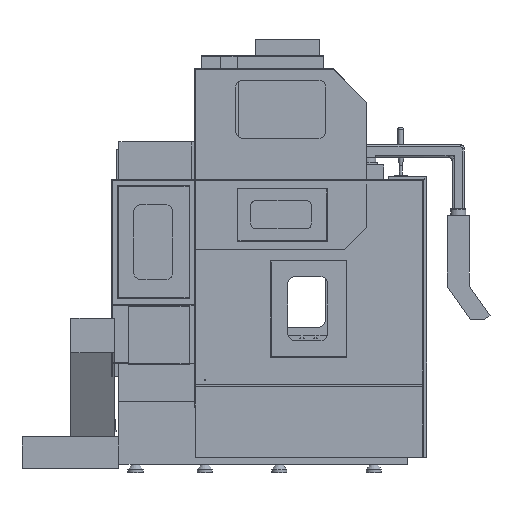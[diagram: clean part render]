
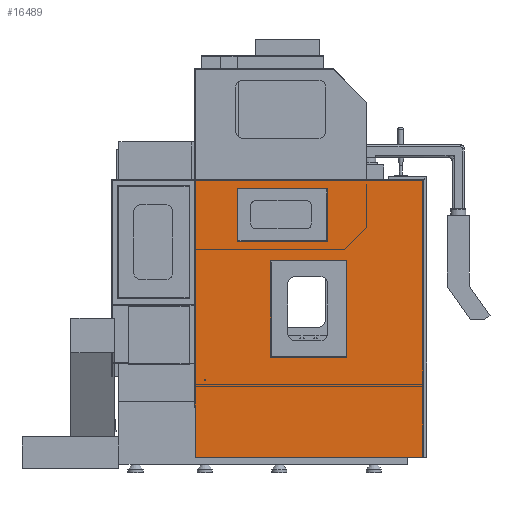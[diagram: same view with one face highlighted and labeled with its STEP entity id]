
A CAD part, left-side view. The second image highlights one B-rep face of the part: STEP entity #16489.
In plain terms, the highlighted planar face has unit normal (-1, 0, 0).
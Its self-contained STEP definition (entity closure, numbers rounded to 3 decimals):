
#2694=FACE_BOUND('',#23367,.T.);
#2695=FACE_BOUND('',#23368,.T.);
#2696=FACE_BOUND('',#23369,.T.);
#2697=FACE_BOUND('',#23370,.T.);
#16489=ADVANCED_FACE('',(#2694,#2695,#2696,#2697),#18668,.T.);
#18668=PLANE('',#61433);
#23367=EDGE_LOOP('',(#31279,#31280,#31281,#31282));
#23368=EDGE_LOOP('',(#31283,#31284,#31285,#31286));
#23369=EDGE_LOOP('',(#31287,#31288,#31289,#31290,#31291,#31292,#31293,#31294,
#31295,#31296,#31297,#31298));
#23370=EDGE_LOOP('',(#31299,#31300,#31301,#31302));
#31279=ORIENTED_EDGE('',*,*,#44509,.F.);
#31280=ORIENTED_EDGE('',*,*,#44506,.F.);
#31281=ORIENTED_EDGE('',*,*,#44503,.F.);
#31282=ORIENTED_EDGE('',*,*,#44499,.F.);
#31283=ORIENTED_EDGE('',*,*,#45239,.F.);
#31284=ORIENTED_EDGE('',*,*,#45236,.F.);
#31285=ORIENTED_EDGE('',*,*,#45233,.F.);
#31286=ORIENTED_EDGE('',*,*,#45229,.F.);
#31287=ORIENTED_EDGE('',*,*,#45241,.F.);
#31288=ORIENTED_EDGE('',*,*,#44582,.T.);
#31289=ORIENTED_EDGE('',*,*,#44575,.T.);
#31290=ORIENTED_EDGE('',*,*,#44491,.T.);
#31291=ORIENTED_EDGE('',*,*,#44490,.T.);
#31292=ORIENTED_EDGE('',*,*,#44498,.T.);
#31293=ORIENTED_EDGE('',*,*,#44485,.F.);
#31294=ORIENTED_EDGE('',*,*,#44496,.T.);
#31295=ORIENTED_EDGE('',*,*,#44810,.F.);
#31296=ORIENTED_EDGE('',*,*,#44580,.F.);
#31297=ORIENTED_EDGE('',*,*,#45242,.T.);
#31298=ORIENTED_EDGE('',*,*,#45243,.F.);
#31299=ORIENTED_EDGE('',*,*,#45244,.F.);
#31300=ORIENTED_EDGE('',*,*,#44517,.F.);
#31301=ORIENTED_EDGE('',*,*,#44514,.F.);
#31302=ORIENTED_EDGE('',*,*,#44518,.F.);
#39298=VERTEX_POINT('',#82424);
#39299=VERTEX_POINT('',#82426);
#39301=VERTEX_POINT('',#82431);
#39303=VERTEX_POINT('',#82435);
#39304=VERTEX_POINT('',#82439);
#39307=VERTEX_POINT('',#82447);
#39308=VERTEX_POINT('',#82454);
#39309=VERTEX_POINT('',#82455);
#39312=VERTEX_POINT('',#82463);
#39314=VERTEX_POINT('',#82469);
#39317=VERTEX_POINT('',#82479);
#39319=VERTEX_POINT('',#82483);
#39321=VERTEX_POINT('',#82488);
#39322=VERTEX_POINT('',#82493);
#39359=VERTEX_POINT('',#82605);
#39360=VERTEX_POINT('',#82611);
#39361=VERTEX_POINT('',#82613);
#39362=VERTEX_POINT('',#82620);
#39799=VERTEX_POINT('',#84662);
#39800=VERTEX_POINT('',#84663);
#39803=VERTEX_POINT('',#84671);
#39805=VERTEX_POINT('',#84677);
#39807=VERTEX_POINT('',#84686);
#39808=VERTEX_POINT('',#84688);
#44485=EDGE_CURVE('',#39298,#39299,#50514,.T.);
#44490=EDGE_CURVE('',#39301,#39303,#50519,.T.);
#44491=EDGE_CURVE('',#39304,#39301,#50520,.T.);
#44496=EDGE_CURVE('',#39298,#39307,#50525,.T.);
#44498=EDGE_CURVE('',#39303,#39299,#50527,.T.);
#44499=EDGE_CURVE('',#39308,#39309,#50528,.T.);
#44503=EDGE_CURVE('',#39309,#39312,#50532,.T.);
#44506=EDGE_CURVE('',#39312,#39314,#50535,.T.);
#44509=EDGE_CURVE('',#39314,#39308,#50538,.T.);
#44514=EDGE_CURVE('',#39319,#39317,#50543,.T.);
#44517=EDGE_CURVE('',#39317,#39321,#50546,.T.);
#44518=EDGE_CURVE('',#39322,#39319,#50547,.T.);
#44575=EDGE_CURVE('',#39359,#39304,#50602,.T.);
#44580=EDGE_CURVE('',#39361,#39360,#50607,.T.);
#44582=EDGE_CURVE('',#39362,#39359,#50609,.T.);
#44810=EDGE_CURVE('',#39360,#39307,#50834,.T.);
#45229=EDGE_CURVE('',#39799,#39800,#51230,.T.);
#45233=EDGE_CURVE('',#39800,#39803,#51234,.T.);
#45236=EDGE_CURVE('',#39803,#39805,#51237,.T.);
#45239=EDGE_CURVE('',#39805,#39799,#51240,.T.);
#45241=EDGE_CURVE('',#39362,#39807,#51242,.T.);
#45242=EDGE_CURVE('',#39361,#39808,#51243,.T.);
#45243=EDGE_CURVE('',#39807,#39808,#51244,.T.);
#45244=EDGE_CURVE('',#39321,#39322,#51245,.T.);
#50514=LINE('',#82425,#56322);
#50519=LINE('',#82436,#56327);
#50520=LINE('',#82438,#56328);
#50525=LINE('',#82448,#56333);
#50527=LINE('',#82451,#56335);
#50528=LINE('',#82453,#56336);
#50532=LINE('',#82462,#56340);
#50535=LINE('',#82468,#56343);
#50538=LINE('',#82474,#56346);
#50543=LINE('',#82484,#56351);
#50546=LINE('',#82490,#56354);
#50547=LINE('',#82492,#56355);
#50602=LINE('',#82604,#56410);
#50607=LINE('',#82614,#56415);
#50609=LINE('',#82619,#56417);
#50834=LINE('',#83085,#56642);
#51230=LINE('',#84661,#57038);
#51234=LINE('',#84670,#57042);
#51237=LINE('',#84676,#57045);
#51240=LINE('',#84682,#57048);
#51242=LINE('',#84685,#57050);
#51243=LINE('',#84687,#57051);
#51244=LINE('',#84689,#57052);
#51245=LINE('',#84690,#57053);
#56322=VECTOR('',#67753,1.);
#56327=VECTOR('',#67760,1.);
#56328=VECTOR('',#67763,1.);
#56333=VECTOR('',#67770,1.);
#56335=VECTOR('',#67774,1.);
#56336=VECTOR('',#67777,1.);
#56340=VECTOR('',#67783,1.);
#56343=VECTOR('',#67788,1.);
#56346=VECTOR('',#67793,1.);
#56351=VECTOR('',#67800,1.);
#56354=VECTOR('',#67805,1.);
#56355=VECTOR('',#67808,1.);
#56410=VECTOR('',#67903,1.);
#56415=VECTOR('',#67912,1.);
#56417=VECTOR('',#67920,1.);
#56642=VECTOR('',#68255,1.);
#57038=VECTOR('',#68945,1.);
#57042=VECTOR('',#68951,1.);
#57045=VECTOR('',#68956,1.);
#57048=VECTOR('',#68961,1.);
#57050=VECTOR('',#68965,1.);
#57051=VECTOR('',#68966,1.);
#57052=VECTOR('',#68967,1.);
#57053=VECTOR('',#68968,1.);
#61433=AXIS2_PLACEMENT_3D('',#84691,#68969,#68970);
#67753=DIRECTION('',(0.,1.,0.));
#67760=DIRECTION('',(0.,1.,0.));
#67763=DIRECTION('',(0.,0.,-1.));
#67770=DIRECTION('',(0.,0.,-1.));
#67774=DIRECTION('',(0.,0.,-1.));
#67777=DIRECTION('',(0.,-1.,0.));
#67783=DIRECTION('',(0.,0.,1.));
#67788=DIRECTION('',(0.,1.,0.));
#67793=DIRECTION('',(0.,0.,-1.));
#67800=DIRECTION('',(0.,-1.,0.));
#67805=DIRECTION('',(0.,0.,1.));
#67808=DIRECTION('',(0.,0.,-1.));
#67903=DIRECTION('',(0.,-1.,0.));
#67912=DIRECTION('',(0.,0.,-1.));
#67920=DIRECTION('',(0.,0.,-1.));
#68255=DIRECTION('',(0.,1.,0.));
#68945=DIRECTION('',(0.,-1.,0.));
#68951=DIRECTION('',(0.,0.,1.));
#68956=DIRECTION('',(0.,1.,0.));
#68961=DIRECTION('',(0.,0.,-1.));
#68965=DIRECTION('',(0.,1.,0.));
#68966=DIRECTION('',(0.,1.,0.));
#68967=DIRECTION('',(0.,0.,1.));
#68968=DIRECTION('',(0.,1.,0.));
#68969=DIRECTION('',(-1.,0.,0.));
#68970=DIRECTION('',(0.,0.,-1.));
#82424=CARTESIAN_POINT('',(-1575.,768.4,-1623.4));
#82425=CARTESIAN_POINT('',(-1575.,768.5,-1623.4));
#82426=CARTESIAN_POINT('',(-1575.,770.,-1623.4));
#82431=CARTESIAN_POINT('',(-1575.,768.4,-1226.6));
#82435=CARTESIAN_POINT('',(-1575.,770.,-1226.6));
#82436=CARTESIAN_POINT('',(-1575.,-2.25,-1226.6));
#82438=CARTESIAN_POINT('',(-1575.,768.4,-1425.));
#82439=CARTESIAN_POINT('',(-1575.,768.4,-1225.));
#82447=CARTESIAN_POINT('',(-1575.,768.4,-1625.));
#82448=CARTESIAN_POINT('',(-1575.,768.4,-1425.));
#82451=CARTESIAN_POINT('',(-1575.,770.,-1425.));
#82453=CARTESIAN_POINT('',(-1575.,703.1,-1070.1));
#82454=CARTESIAN_POINT('',(-1575.,703.1,-1070.1));
#82455=CARTESIAN_POINT('',(-1575.,697.9,-1070.1));
#82462=CARTESIAN_POINT('',(-1575.,697.9,-1070.1));
#82463=CARTESIAN_POINT('',(-1575.,697.9,-1067.9));
#82468=CARTESIAN_POINT('',(-1575.,697.9,-1067.9));
#82469=CARTESIAN_POINT('',(-1575.,703.1,-1067.9));
#82474=CARTESIAN_POINT('',(-1575.,703.1,-1067.9));
#82479=CARTESIAN_POINT('',(-1575.,-325.,-905.));
#82483=CARTESIAN_POINT('',(-1575.,225.,-905.));
#82484=CARTESIAN_POINT('',(-1575.,225.,-905.));
#82488=CARTESIAN_POINT('',(-1575.,-325.,-205.));
#82490=CARTESIAN_POINT('',(-1575.,-325.,-905.));
#82492=CARTESIAN_POINT('',(-1575.,225.,-205.));
#82493=CARTESIAN_POINT('',(-1575.,225.,-205.));
#82604=CARTESIAN_POINT('',(-1575.,-872.5,-1225.));
#82605=CARTESIAN_POINT('',(-1575.,770.,-1225.));
#82611=CARTESIAN_POINT('',(-1575.,-875.,-1625.));
#82613=CARTESIAN_POINT('',(-1575.,-875.,376.5));
#82614=CARTESIAN_POINT('',(-1575.,-875.,375.));
#82619=CARTESIAN_POINT('',(-1575.,770.,-205.));
#82620=CARTESIAN_POINT('',(-1575.,770.,-1115.028));
#83085=CARTESIAN_POINT('',(-1575.,-2.25,-1625.));
#84661=CARTESIAN_POINT('',(-1575.,465.,-65.));
#84662=CARTESIAN_POINT('',(-1575.,465.,-65.));
#84663=CARTESIAN_POINT('',(-1575.,-185.,-65.));
#84670=CARTESIAN_POINT('',(-1575.,-185.,-65.));
#84671=CARTESIAN_POINT('',(-1575.,-185.,315.));
#84676=CARTESIAN_POINT('',(-1575.,-185.,315.));
#84677=CARTESIAN_POINT('',(-1575.,465.,315.));
#84682=CARTESIAN_POINT('',(-1575.,465.,315.));
#84685=CARTESIAN_POINT('',(-1575.,768.,-1115.028));
#84686=CARTESIAN_POINT('',(-1575.,772.5,-1115.028));
#84687=CARTESIAN_POINT('',(-1575.,-875.,376.5));
#84688=CARTESIAN_POINT('',(-1575.,772.5,376.5));
#84689=CARTESIAN_POINT('',(-1575.,772.5,1175.));
#84690=CARTESIAN_POINT('',(-1575.,-872.5,-205.));
#84691=CARTESIAN_POINT('',(-1575.,-875.,-625.));
